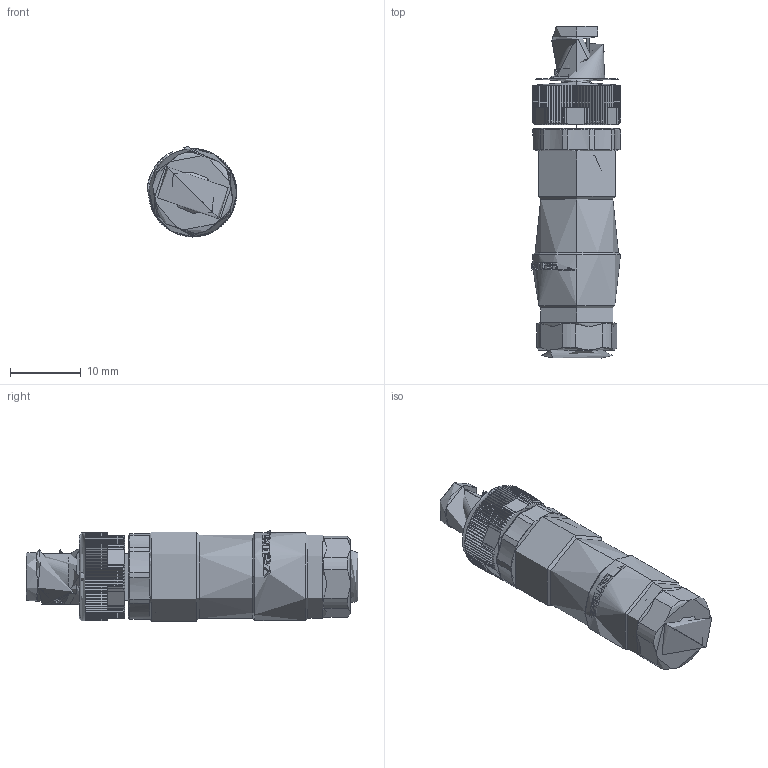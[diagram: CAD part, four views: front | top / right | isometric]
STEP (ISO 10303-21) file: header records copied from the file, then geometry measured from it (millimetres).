
FILE_DESCRIPTION (( 'STEP AP214' ), '1' );
FILE_NAME ('M8-M03T.STEP', '2019-12-16T03:07:42', ( '微软用户' ), ( '微软中国' ), 'SwSTEP 2.0', 'SolidWorks 2016', '' );
FILE_SCHEMA (( 'AUTOMOTIVE_DESIGN' ));
Length unit declared in the file: millimetre
Products named in the file (1): M8-M03T
Bounding box: 12.72 x 47 x 12.81 mm (x, y, z)
Topology: 0 solids, 1 shells, 844 faces, 2452 edges, 1591 vertices
Faces by surface type: plane 499, cylinder 203, bspline 92, cone 50
Full cylindrical faces by diameter (mm): 2 x3, 9.6 x1, 10.25 x2, 11 x1
Entity records: 46444 total; most frequent: CARTESIAN_POINT 27181, ORIENTED_EDGE 4725, DIRECTION 2811, EDGE_CURVE 2396, VERTEX_POINT 1564, B_SPLINE_CURVE_WITH_KNOTS 1223, LINE 995, VECTOR 995
